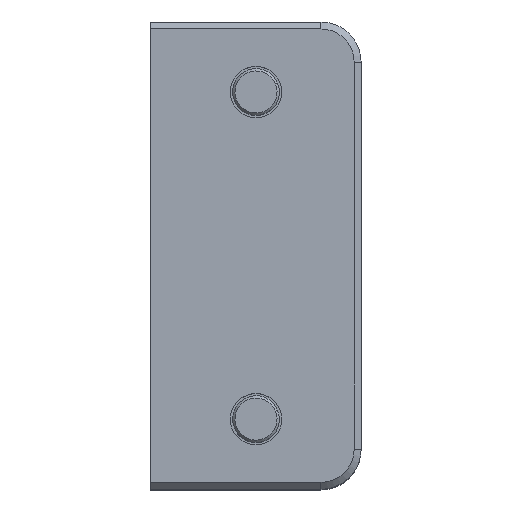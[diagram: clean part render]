
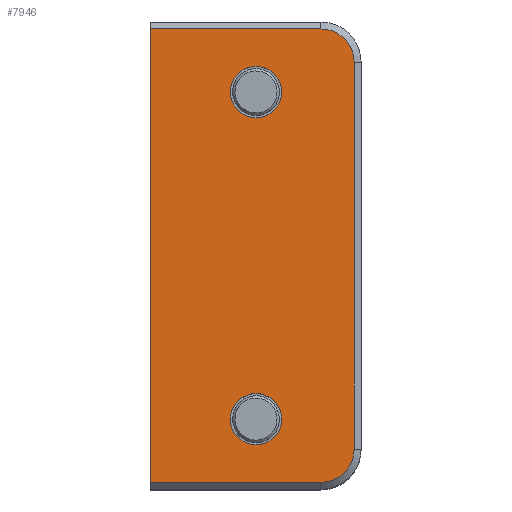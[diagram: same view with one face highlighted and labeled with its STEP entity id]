
A CAD part, top view. The second image highlights one B-rep face of the part: STEP entity #7946.
In plain terms, the highlighted planar face has unit normal (0, 0, 1).
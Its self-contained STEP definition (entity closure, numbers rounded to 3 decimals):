
#47 = VERTEX_POINT ( 'NONE', #5497 ) ;
#225 = EDGE_CURVE ( 'NONE', #12694, #5643, #5913, .T. ) ;
#411 = FACE_BOUND ( 'NONE', #6760, .T. ) ;
#495 = ORIENTED_EDGE ( 'NONE', *, *, #225, .T. ) ;
#534 = VERTEX_POINT ( 'NONE', #10522 ) ;
#750 = DIRECTION ( 'NONE',  ( 0., 1., 0. ) ) ;
#943 = CARTESIAN_POINT ( 'NONE',  ( 0., 40.5, 20. ) ) ;
#1094 = DIRECTION ( 'NONE',  ( 0., 0., -1. ) ) ;
#1123 = CIRCLE ( 'NONE', #11241, 5.5 ) ;
#1278 = CARTESIAN_POINT ( 'NONE',  ( -22.5, 48.5, 20. ) ) ;
#1291 = EDGE_CURVE ( 'NONE', #9038, #47, #11863, .T. ) ;
#1520 = CARTESIAN_POINT ( 'NONE',  ( 0., -35., 20. ) ) ;
#1811 = CARTESIAN_POINT ( 'NONE',  ( -22.5, -48.5, 20. ) ) ;
#1858 = DIRECTION ( 'NONE',  ( -1., 0., 0. ) ) ;
#2106 = ORIENTED_EDGE ( 'NONE', *, *, #2725, .T. ) ;
#2171 = LINE ( 'NONE', #6938, #12617 ) ;
#2581 = AXIS2_PLACEMENT_3D ( 'NONE', #3283, #1094, #12526 ) ;
#2725 = EDGE_CURVE ( 'NONE', #47, #9038, #5863, .T. ) ;
#2798 = DIRECTION ( 'NONE',  ( 0., 1., 0. ) ) ;
#2803 = EDGE_CURVE ( 'NONE', #5643, #3716, #11666, .T. ) ;
#2810 = EDGE_CURVE ( 'NONE', #534, #11416, #4175, .T. ) ;
#3145 = EDGE_CURVE ( 'NONE', #7940, #8464, #4348, .T. ) ;
#3247 = CARTESIAN_POINT ( 'NONE',  ( 22.5, -50., 20. ) ) ;
#3283 = CARTESIAN_POINT ( 'NONE',  ( 0., 35., 20. ) ) ;
#3307 = CARTESIAN_POINT ( 'NONE',  ( 13.9, 41.4, 20. ) ) ;
#3342 = DIRECTION ( 'NONE',  ( -1., 0., 0. ) ) ;
#3716 = VERTEX_POINT ( 'NONE', #1811 ) ;
#3720 = EDGE_CURVE ( 'NONE', #11416, #8528, #2171, .T. ) ;
#4074 = CARTESIAN_POINT ( 'NONE',  ( 21., -41.4, 20. ) ) ;
#4078 = CARTESIAN_POINT ( 'NONE',  ( 13.9, -41.4, 20. ) ) ;
#4142 = ORIENTED_EDGE ( 'NONE', *, *, #2803, .T. ) ;
#4175 = CIRCLE ( 'NONE', #8980, 7.1 ) ;
#4180 = ORIENTED_EDGE ( 'NONE', *, *, #3145, .T. ) ;
#4348 = CIRCLE ( 'NONE', #11515, 5.5 ) ;
#4474 = EDGE_LOOP ( 'NONE', ( #6075, #495, #4142, #12318, #9169, #6944 ) ) ;
#4480 = AXIS2_PLACEMENT_3D ( 'NONE', #3247, #9595, #3342 ) ;
#4689 = VECTOR ( 'NONE', #13285, 1000. ) ;
#4870 = CARTESIAN_POINT ( 'NONE',  ( 0., -29.5, 20. ) ) ;
#4918 = DIRECTION ( 'NONE',  ( 0., 0., -1. ) ) ;
#5063 = DIRECTION ( 'NONE',  ( 1., 0., 0. ) ) ;
#5098 = CARTESIAN_POINT ( 'NONE',  ( 0., -35., 20. ) ) ;
#5241 = CARTESIAN_POINT ( 'NONE',  ( 0., -40.5, 20. ) ) ;
#5261 = VECTOR ( 'NONE', #5063, 1000. ) ;
#5358 = EDGE_CURVE ( 'NONE', #8464, #7940, #1123, .T. ) ;
#5497 = CARTESIAN_POINT ( 'NONE',  ( 0., 29.5, 20. ) ) ;
#5613 = CIRCLE ( 'NONE', #6306, 7.1 ) ;
#5643 = VERTEX_POINT ( 'NONE', #1278 ) ;
#5863 = CIRCLE ( 'NONE', #6472, 5.5 ) ;
#5913 = LINE ( 'NONE', #6914, #8475 ) ;
#5918 = DIRECTION ( 'NONE',  ( -1., 0., 0. ) ) ;
#6075 = ORIENTED_EDGE ( 'NONE', *, *, #12075, .T. ) ;
#6252 = EDGE_CURVE ( 'NONE', #3716, #534, #11762, .T. ) ;
#6306 = AXIS2_PLACEMENT_3D ( 'NONE', #3307, #11688, #10654 ) ;
#6429 = CARTESIAN_POINT ( 'NONE',  ( 13.9, 48.5, 20. ) ) ;
#6472 = AXIS2_PLACEMENT_3D ( 'NONE', #9145, #13454, #12315 ) ;
#6760 = EDGE_LOOP ( 'NONE', ( #12889, #2106 ) ) ;
#6914 = CARTESIAN_POINT ( 'NONE',  ( 22.5, 48.5, 20. ) ) ;
#6938 = CARTESIAN_POINT ( 'NONE',  ( 21., -50., 20. ) ) ;
#6944 = ORIENTED_EDGE ( 'NONE', *, *, #3720, .T. ) ;
#7151 = CARTESIAN_POINT ( 'NONE',  ( -22.5, -50., 20. ) ) ;
#7834 = DIRECTION ( 'NONE',  ( 0., 0., -1. ) ) ;
#7845 = CARTESIAN_POINT ( 'NONE',  ( 22.5, -48.5, 20. ) ) ;
#7940 = VERTEX_POINT ( 'NONE', #5241 ) ;
#7946 = ADVANCED_FACE ( 'NONE', ( #411, #7952, #8446 ), #10510, .F. ) ;
#7952 = FACE_BOUND ( 'NONE', #8662, .T. ) ;
#8446 = FACE_OUTER_BOUND ( 'NONE', #4474, .T. ) ;
#8464 = VERTEX_POINT ( 'NONE', #4870 ) ;
#8475 = VECTOR ( 'NONE', #5918, 1000. ) ;
#8528 = VERTEX_POINT ( 'NONE', #10628 ) ;
#8662 = EDGE_LOOP ( 'NONE', ( #10350, #4180 ) ) ;
#8980 = AXIS2_PLACEMENT_3D ( 'NONE', #4078, #9230, #1858 ) ;
#9038 = VERTEX_POINT ( 'NONE', #943 ) ;
#9145 = CARTESIAN_POINT ( 'NONE',  ( 0., 35., 20. ) ) ;
#9169 = ORIENTED_EDGE ( 'NONE', *, *, #2810, .T. ) ;
#9230 = DIRECTION ( 'NONE',  ( 0., 0., 1. ) ) ;
#9595 = DIRECTION ( 'NONE',  ( 0., 0., -1. ) ) ;
#9966 = DIRECTION ( 'NONE',  ( 0., 1., 0. ) ) ;
#10350 = ORIENTED_EDGE ( 'NONE', *, *, #5358, .T. ) ;
#10510 = PLANE ( 'NONE',  #4480 ) ;
#10522 = CARTESIAN_POINT ( 'NONE',  ( 13.9, -48.5, 20. ) ) ;
#10628 = CARTESIAN_POINT ( 'NONE',  ( 21., 41.4, 20. ) ) ;
#10654 = DIRECTION ( 'NONE',  ( -1., 0., 0. ) ) ;
#11241 = AXIS2_PLACEMENT_3D ( 'NONE', #5098, #4918, #2798 ) ;
#11416 = VERTEX_POINT ( 'NONE', #4074 ) ;
#11515 = AXIS2_PLACEMENT_3D ( 'NONE', #1520, #7834, #9966 ) ;
#11666 = LINE ( 'NONE', #7151, #4689 ) ;
#11688 = DIRECTION ( 'NONE',  ( 0., 0., 1. ) ) ;
#11762 = LINE ( 'NONE', #7845, #5261 ) ;
#11863 = CIRCLE ( 'NONE', #2581, 5.5 ) ;
#12075 = EDGE_CURVE ( 'NONE', #8528, #12694, #5613, .T. ) ;
#12315 = DIRECTION ( 'NONE',  ( 0., 1., 0. ) ) ;
#12318 = ORIENTED_EDGE ( 'NONE', *, *, #6252, .T. ) ;
#12526 = DIRECTION ( 'NONE',  ( 0., 1., 0. ) ) ;
#12617 = VECTOR ( 'NONE', #750, 1000. ) ;
#12694 = VERTEX_POINT ( 'NONE', #6429 ) ;
#12889 = ORIENTED_EDGE ( 'NONE', *, *, #1291, .T. ) ;
#13285 = DIRECTION ( 'NONE',  ( 0., -1., 0. ) ) ;
#13454 = DIRECTION ( 'NONE',  ( 0., 0., -1. ) ) ;
